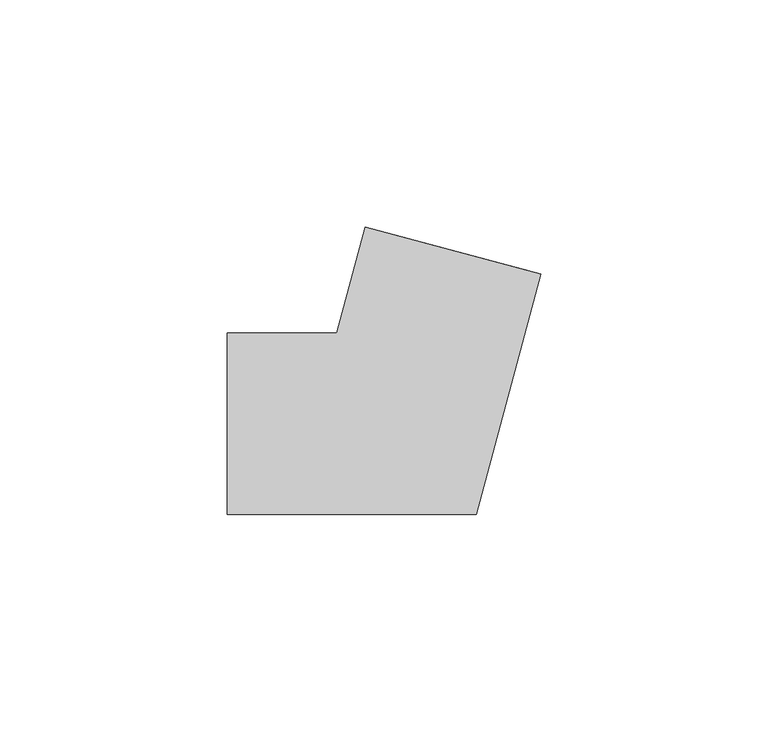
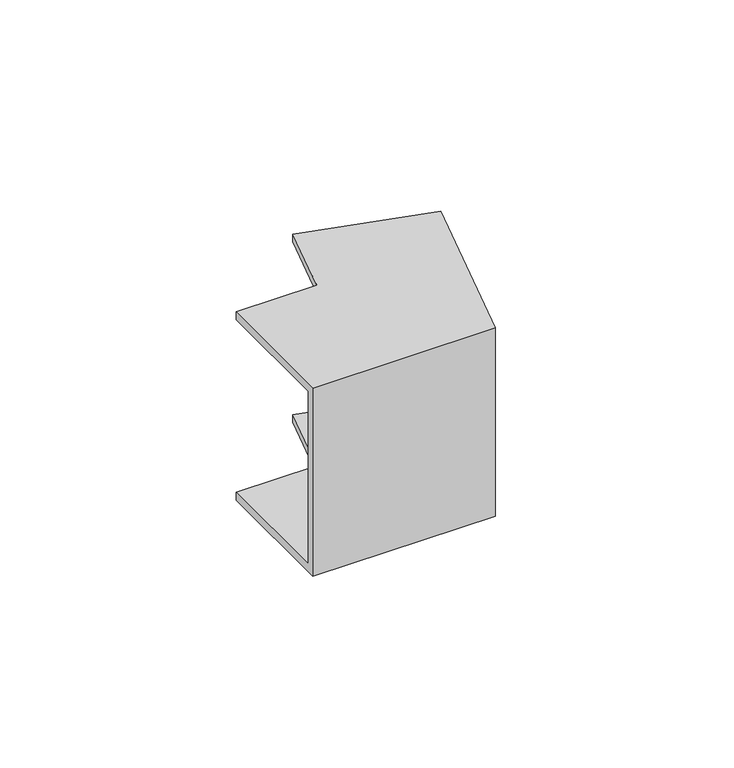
"""IFC4 building model written with IfcOpenShell, lengths in millimetres: cable carrier fitting geometry, КНС_УголВнутренний_ILC_DKC : Угол внутренний_DKC."""

from ifc_helpers import new_model, si_unit, origin, place, context, project, spatial, faceted_brep, source, transform, mapped, element, save


def cable_carrier_fitting_89ad0e65(model_context):
    return source(origin(), model_context, "Body", "Brep", [
        faceted_brep([(-39.5297145, -20.0, 30.0), (-39.5297145, 20.0, 30.0), (-39.5297145, 20.0, 27.5), (-39.5297145, -17.5, 27.5), (-39.5297145, -17.5, -27.5), (-39.5297145, 20.0, -27.5), (-39.5297145, 20.0, -30.0), (-39.5297145, -20.0, -30.0), (29.5495595, 33.0063912, 30.0), (29.5495595, 33.0063912, -30.0), (-9.0874736, 43.359153, -30.0), (-9.0874736, 43.359153, -27.5), (27.1347449, 33.6534388, -27.5), (27.1347449, 33.6534388, 27.5), (-9.0874736, 43.359153, 27.5), (-9.0874736, 43.359153, 30.0), (15.3465398, -20.0, 30.0), (-15.3465398, 20.0, 30.0), (-15.3465398, 20.0, 27.5), (13.4282223, -17.5, 27.5), (13.4282223, -17.5, -27.5), (-15.3465398, 20.0, -27.5), (-15.3465398, 20.0, -30.0), (15.3465398, -20.0, -30.0)], [[[0, 1, 2, 3, 4, 5, 6, 7]], [[8, 9, 10, 11, 12, 13, 14, 15]], [[1, 0, 16, 8, 15, 17]], [[2, 1, 17, 18]], [[3, 2, 18, 14, 13, 19]], [[4, 3, 19, 20]], [[5, 4, 20, 12, 11, 21]], [[6, 5, 21, 22]], [[7, 6, 22, 10, 9, 23]], [[0, 7, 23, 16]], [[18, 17, 15, 14]], [[20, 19, 13, 12]], [[22, 21, 11, 10]], [[16, 23, 9, 8]]]),
    ])


if __name__ == "__main__":
    model = new_model("IFC4")
    model_context = context("Model", 3, world=origin())
    ifc_project = project(units=[si_unit("LENGTHUNIT", "METRE", prefix="MILLI")], contexts=[model_context])
    site = spatial("IfcSite", under=ifc_project)
    building = spatial("IfcBuilding", under=site)
    placement = place(None, origin())
    cable_carrier_fitting_shape = cable_carrier_fitting_89ad0e65(model_context)
    element("IfcCableCarrierFitting", 1, ObjectType="КНС_УголВнутренний_ILC_DKC : Угол внутренний_DKC", at=placement, inside=building, context=model_context, shape_type="MappedRepresentation", body=[
        mapped(cable_carrier_fitting_shape, transform((0.0, 0.0, 0.0), x_axis=(1.0, 0.0, 0.0), y_axis=(0.0, 1.0, 0.0), z_axis=(0.0, 0.0, 1.0))),
    ])
    save(model, "model.ifc")
